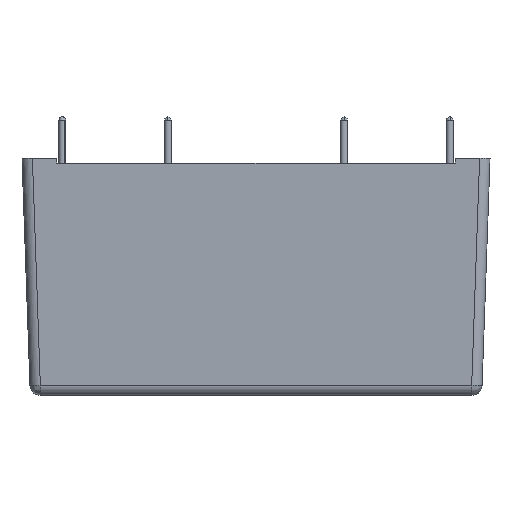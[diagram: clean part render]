
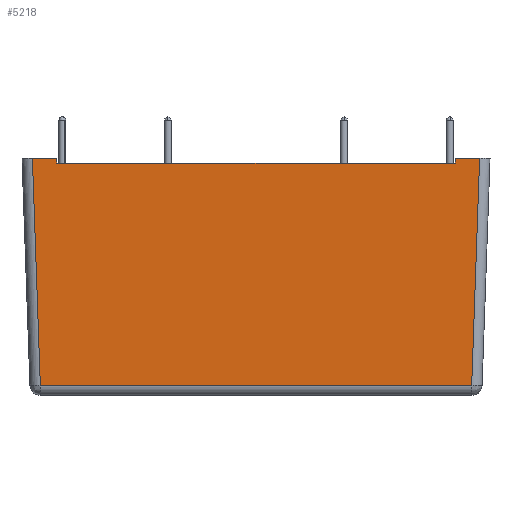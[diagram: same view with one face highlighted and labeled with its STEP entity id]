
A CAD part, front view. The second image highlights one B-rep face of the part: STEP entity #5218.
In plain terms, the highlighted planar face has unit normal (0, -0.999, -0.035).
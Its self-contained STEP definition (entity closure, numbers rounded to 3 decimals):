
#61 = DIRECTION ( 'NONE',  ( 1., 0., 0. ) ) ;
#91 = LINE ( 'NONE', #1964, #5753 ) ;
#169 = EDGE_CURVE ( 'NONE', #5982, #3852, #5776, .T. ) ;
#250 = DIRECTION ( 'NONE',  ( 1., 0., 0. ) ) ;
#359 = CARTESIAN_POINT ( 'NONE',  ( -28.725, -44.45, 34.2 ) ) ;
#560 = ORIENTED_EDGE ( 'NONE', *, *, #4893, .F. ) ;
#685 = EDGE_CURVE ( 'NONE', #4522, #3852, #5787, .T. ) ;
#745 = VERTEX_POINT ( 'NONE', #837 ) ;
#812 = CARTESIAN_POINT ( 'NONE',  ( 32.251, -44.45, 34.2 ) ) ;
#826 = VECTOR ( 'NONE', #4702, 1000. ) ;
#837 = CARTESIAN_POINT ( 'NONE',  ( -32.251, -44.45, 34.2 ) ) ;
#984 = EDGE_LOOP ( 'NONE', ( #1065, #1017, #5040, #6001, #560, #1570, #5187, #4851 ) ) ;
#1009 = VECTOR ( 'NONE', #2405, 1000. ) ;
#1017 = ORIENTED_EDGE ( 'NONE', *, *, #2574, .T. ) ;
#1065 = ORIENTED_EDGE ( 'NONE', *, *, #4741, .T. ) ;
#1081 = VECTOR ( 'NONE', #4287, 1000. ) ;
#1239 = DIRECTION ( 'NONE',  ( 0., -0.035, 0.999 ) ) ;
#1570 = ORIENTED_EDGE ( 'NONE', *, *, #6059, .F. ) ;
#1620 = EDGE_CURVE ( 'NONE', #745, #5493, #2283, .T. ) ;
#1744 = CARTESIAN_POINT ( 'NONE',  ( 33.725, -43.306, 1.448 ) ) ;
#1898 = CARTESIAN_POINT ( 'NONE',  ( -32.238, -44.45, 34.2 ) ) ;
#1964 = CARTESIAN_POINT ( 'NONE',  ( 0., -44.426, 33.5 ) ) ;
#2154 = AXIS2_PLACEMENT_3D ( 'NONE', #5453, #5964, #6016 ) ;
#2223 = CARTESIAN_POINT ( 'NONE',  ( -28.725, -44.426, 33.5 ) ) ;
#2283 = LINE ( 'NONE', #1898, #3466 ) ;
#2405 = DIRECTION ( 'NONE',  ( 0.035, -0.035, 0.999 ) ) ;
#2574 = EDGE_CURVE ( 'NONE', #3023, #5982, #6136, .T. ) ;
#2609 = DIRECTION ( 'NONE',  ( 0.035, 0.035, -0.999 ) ) ;
#2642 = CARTESIAN_POINT ( 'NONE',  ( -31.107, -43.306, 1.448 ) ) ;
#2951 = LINE ( 'NONE', #5030, #6255 ) ;
#3023 = VERTEX_POINT ( 'NONE', #2642 ) ;
#3038 = CARTESIAN_POINT ( 'NONE',  ( 31.107, -43.306, 1.448 ) ) ;
#3043 = VECTOR ( 'NONE', #250, 1000. ) ;
#3167 = VERTEX_POINT ( 'NONE', #3660 ) ;
#3242 = CARTESIAN_POINT ( 'NONE',  ( 32.238, -44.45, 34.2 ) ) ;
#3328 = CARTESIAN_POINT ( 'NONE',  ( 31.107, -43.306, 1.448 ) ) ;
#3466 = VECTOR ( 'NONE', #6294, 1000. ) ;
#3538 = LINE ( 'NONE', #5509, #6361 ) ;
#3647 = CARTESIAN_POINT ( 'NONE',  ( 28.726, -44.45, 34.2 ) ) ;
#3660 = CARTESIAN_POINT ( 'NONE',  ( 28.726, -44.426, 33.5 ) ) ;
#3850 = EDGE_CURVE ( 'NONE', #5493, #4285, #4346, .T. ) ;
#3852 = VERTEX_POINT ( 'NONE', #812 ) ;
#4285 = VERTEX_POINT ( 'NONE', #2223 ) ;
#4287 = DIRECTION ( 'NONE',  ( 0., 0.035, -0.999 ) ) ;
#4346 = LINE ( 'NONE', #5293, #1081 ) ;
#4522 = VERTEX_POINT ( 'NONE', #3647 ) ;
#4702 = DIRECTION ( 'NONE',  ( 1., 0., 0. ) ) ;
#4741 = EDGE_CURVE ( 'NONE', #745, #3023, #2951, .T. ) ;
#4851 = ORIENTED_EDGE ( 'NONE', *, *, #1620, .F. ) ;
#4893 = EDGE_CURVE ( 'NONE', #3167, #4522, #3538, .T. ) ;
#4940 = FACE_OUTER_BOUND ( 'NONE', #984, .T. ) ;
#5030 = CARTESIAN_POINT ( 'NONE',  ( -32.251, -44.45, 34.2 ) ) ;
#5040 = ORIENTED_EDGE ( 'NONE', *, *, #169, .T. ) ;
#5059 = PLANE ( 'NONE',  #2154 ) ;
#5187 = ORIENTED_EDGE ( 'NONE', *, *, #3850, .F. ) ;
#5218 = ADVANCED_FACE ( 'NONE', ( #4940 ), #5059, .T. ) ;
#5293 = CARTESIAN_POINT ( 'NONE',  ( -28.725, -44.45, 34.2 ) ) ;
#5453 = CARTESIAN_POINT ( 'NONE',  ( 33.725, -43.256, 0.02 ) ) ;
#5493 = VERTEX_POINT ( 'NONE', #359 ) ;
#5509 = CARTESIAN_POINT ( 'NONE',  ( 28.726, -44.426, 33.5 ) ) ;
#5753 = VECTOR ( 'NONE', #61, 1000. ) ;
#5776 = LINE ( 'NONE', #3328, #1009 ) ;
#5787 = LINE ( 'NONE', #3242, #3043 ) ;
#5964 = DIRECTION ( 'NONE',  ( 0., -0.999, -0.035 ) ) ;
#5982 = VERTEX_POINT ( 'NONE', #3038 ) ;
#6001 = ORIENTED_EDGE ( 'NONE', *, *, #685, .F. ) ;
#6016 = DIRECTION ( 'NONE',  ( 0., 0.035, -0.999 ) ) ;
#6059 = EDGE_CURVE ( 'NONE', #4285, #3167, #91, .T. ) ;
#6136 = LINE ( 'NONE', #1744, #826 ) ;
#6255 = VECTOR ( 'NONE', #2609, 1000. ) ;
#6294 = DIRECTION ( 'NONE',  ( 1., 0., 0. ) ) ;
#6361 = VECTOR ( 'NONE', #1239, 1000. ) ;
